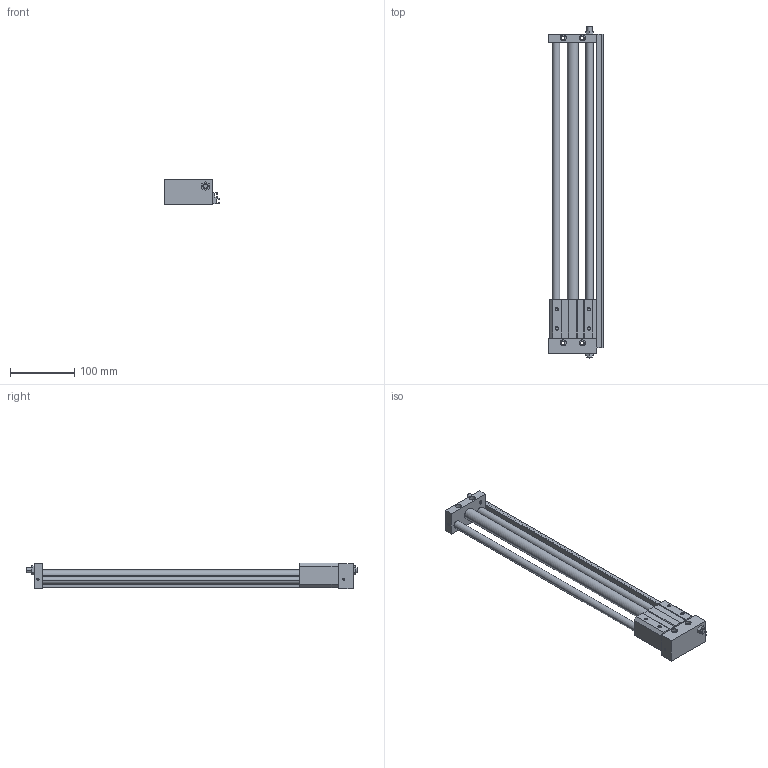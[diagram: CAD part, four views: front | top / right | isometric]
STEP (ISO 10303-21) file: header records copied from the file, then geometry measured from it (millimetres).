
FILE_DESCRIPTION((''),'2;1');
FILE_NAME('C:\Documents and Settings\Administrator\桌面\GYS\GYS15\GYSR15X400.stp','2012-03-05T10:52:19',('Administrator'),(''),'Autodesk Inventor 8','Autodesk Inventor 8','');
FILE_SCHEMA(('AUTOMOTIVE_DESIGN { 1 0 10303 214 1 1 1 1 }'));
Length unit declared in the file: millimetre
Products named in the file (3): GYSR15X400; GYS15X400; GYS15160X400
Assembly tree (2 placements, depth 2):
  GYSR15X400
    GYS15X400
    GYS15160X400
Bounding box: 85 x 517 x 40 mm (x, y, z)
Volume: 494049.1 mm3; surface area: 131517.1 mm2
Topology: 2 solids, 2 shells, 201 faces, 494 edges, 320 vertices
Faces by surface type: plane 107, cylinder 60, cone 28, bspline 6
Entity records: 6100 total; most frequent: CARTESIAN_POINT 1094, DIRECTION 1058, ORIENTED_EDGE 988, EDGE_CURVE 494, AXIS2_PLACEMENT_3D 364, VECTOR 330, LINE 330, VERTEX_POINT 320
